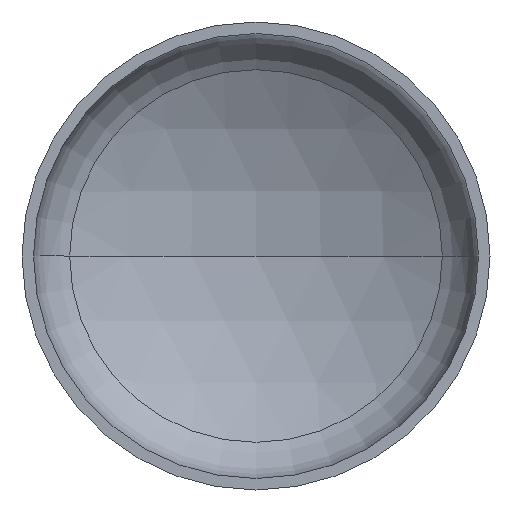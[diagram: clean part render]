
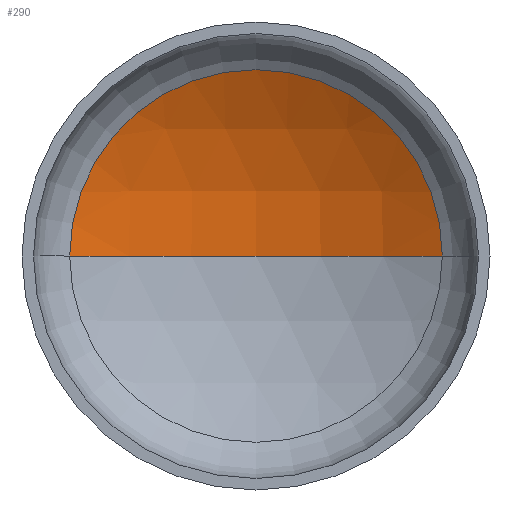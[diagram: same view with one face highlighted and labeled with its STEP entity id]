
A CAD part, front view. The second image highlights one B-rep face of the part: STEP entity #290.
In plain terms, the highlighted spherical face has radius 2080 mm.
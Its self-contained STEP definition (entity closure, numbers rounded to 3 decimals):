
#2 = CARTESIAN_POINT ( 'NONE',  ( 0., -1337.225, 0. ) ) ;
#9 = AXIS2_PLACEMENT_3D ( 'NONE', #41, #284, #113 ) ;
#13 = AXIS2_PLACEMENT_3D ( 'NONE', #2, #338, #234 ) ;
#37 = EDGE_LOOP ( 'NONE', ( #164, #257, #159 ) ) ;
#41 = CARTESIAN_POINT ( 'NONE',  ( 0., -1337.225, 0. ) ) ;
#44 = AXIS2_PLACEMENT_3D ( 'NONE', #212, #399, #269 ) ;
#70 = VERTEX_POINT ( 'NONE', #226 ) ;
#72 = VERTEX_POINT ( 'NONE', #371 ) ;
#98 = VERTEX_POINT ( 'NONE', #302 ) ;
#113 = DIRECTION ( 'NONE',  ( -1., 0., 0. ) ) ;
#121 = SPHERICAL_SURFACE ( 'NONE', #44, 2080. ) ;
#159 = ORIENTED_EDGE ( 'NONE', *, *, #389, .T. ) ;
#164 = ORIENTED_EDGE ( 'NONE', *, *, #360, .F. ) ;
#182 = CIRCLE ( 'NONE', #9, 2080. ) ;
#194 = CIRCLE ( 'NONE', #13, 2080. ) ;
#212 = CARTESIAN_POINT ( 'NONE',  ( 0., -1337.225, 0. ) ) ;
#226 = CARTESIAN_POINT ( 'NONE',  ( -1035.048, 466.958, 0. ) ) ;
#234 = DIRECTION ( 'NONE',  ( 1., 0., 0. ) ) ;
#243 = DIRECTION ( 'NONE',  ( 1., 0., 0. ) ) ;
#257 = ORIENTED_EDGE ( 'NONE', *, *, #380, .T. ) ;
#259 = AXIS2_PLACEMENT_3D ( 'NONE', #384, #385, #243 ) ;
#269 = DIRECTION ( 'NONE',  ( -1., 0., 0. ) ) ;
#284 = DIRECTION ( 'NONE',  ( 0., 0., -1. ) ) ;
#290 = ADVANCED_FACE ( 'NONE', ( #405 ), #121, .F. ) ;
#302 = CARTESIAN_POINT ( 'NONE',  ( 1035.048, 466.958, 0. ) ) ;
#311 = CIRCLE ( 'NONE', #259, 1035.048 ) ;
#338 = DIRECTION ( 'NONE',  ( 0., 0., 1. ) ) ;
#360 = EDGE_CURVE ( 'NONE', #72, #70, #194, .T. ) ;
#371 = CARTESIAN_POINT ( 'NONE',  ( 0., 742.775, 0. ) ) ;
#380 = EDGE_CURVE ( 'NONE', #72, #98, #182, .T. ) ;
#384 = CARTESIAN_POINT ( 'NONE',  ( 0., 466.958, 0. ) ) ;
#385 = DIRECTION ( 'NONE',  ( 0., -1., 0. ) ) ;
#389 = EDGE_CURVE ( 'NONE', #98, #70, #311, .T. ) ;
#399 = DIRECTION ( 'NONE',  ( 0., 0., -1. ) ) ;
#405 = FACE_OUTER_BOUND ( 'NONE', #37, .T. ) ;
